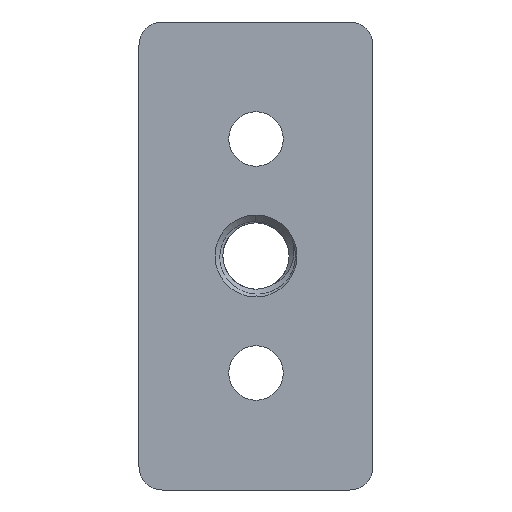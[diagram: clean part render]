
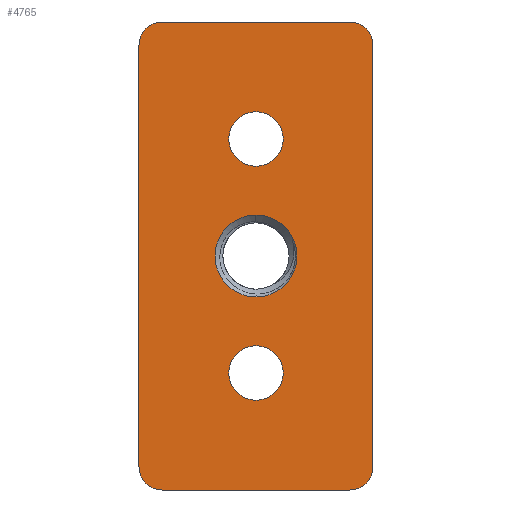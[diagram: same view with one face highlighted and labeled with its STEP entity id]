
A CAD part, front view. The second image highlights one B-rep face of the part: STEP entity #4765.
In plain terms, the highlighted planar face has unit normal (0, -1, 0).
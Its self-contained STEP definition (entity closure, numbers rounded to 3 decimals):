
#18 = VERTEX_POINT ( 'NONE', #3647 ) ;
#23 = EDGE_LOOP ( 'NONE', ( #187, #4351 ) ) ;
#145 = DIRECTION ( 'NONE',  ( 1., 0., 0. ) ) ;
#148 = VERTEX_POINT ( 'NONE', #2853 ) ;
#187 = ORIENTED_EDGE ( 'NONE', *, *, #3766, .T. ) ;
#221 = EDGE_CURVE ( 'NONE', #2150, #1195, #952, .T. ) ;
#277 = CARTESIAN_POINT ( 'NONE',  ( 15., 4., -11.5 ) ) ;
#337 = VECTOR ( 'NONE', #145, 1000. ) ;
#352 = CARTESIAN_POINT ( 'NONE',  ( 15., 4., -18.5 ) ) ;
#355 = ORIENTED_EDGE ( 'NONE', *, *, #1877, .F. ) ;
#360 = VERTEX_POINT ( 'NONE', #2316 ) ;
#452 = ORIENTED_EDGE ( 'NONE', *, *, #829, .T. ) ;
#468 = DIRECTION ( 'NONE',  ( 0., 0., -1. ) ) ;
#479 = AXIS2_PLACEMENT_3D ( 'NONE', #3198, #2453, #3533 ) ;
#500 = ORIENTED_EDGE ( 'NONE', *, *, #3704, .F. ) ;
#544 = AXIS2_PLACEMENT_3D ( 'NONE', #1350, #3565, #4333 ) ;
#576 = LINE ( 'NONE', #2956, #1409 ) ;
#704 = DIRECTION ( 'NONE',  ( 0., 1., 0. ) ) ;
#711 = DIRECTION ( 'NONE',  ( 0., 0., 1. ) ) ;
#733 = DIRECTION ( 'NONE',  ( 0., 1., 0. ) ) ;
#741 = AXIS2_PLACEMENT_3D ( 'NONE', #4437, #1427, #4112 ) ;
#784 = FACE_BOUND ( 'NONE', #2256, .T. ) ;
#829 = EDGE_CURVE ( 'NONE', #1198, #3381, #1192, .T. ) ;
#834 = DIRECTION ( 'NONE',  ( 0., 1., 0. ) ) ;
#903 = AXIS2_PLACEMENT_3D ( 'NONE', #1090, #733, #711 ) ;
#923 = DIRECTION ( 'NONE',  ( 0., 0., 1. ) ) ;
#952 = CIRCLE ( 'NONE', #544, 3. ) ;
#962 = ORIENTED_EDGE ( 'NONE', *, *, #3785, .T. ) ;
#980 = AXIS2_PLACEMENT_3D ( 'NONE', #4245, #834, #3913 ) ;
#981 = CARTESIAN_POINT ( 'NONE',  ( 15., 4., -30. ) ) ;
#1016 = DIRECTION ( 'NONE',  ( 0., -1., 0. ) ) ;
#1060 = DIRECTION ( 'NONE',  ( 0., 0., 1. ) ) ;
#1090 = CARTESIAN_POINT ( 'NONE',  ( 15., 4., -30. ) ) ;
#1146 = AXIS2_PLACEMENT_3D ( 'NONE', #2547, #4048, #3279 ) ;
#1153 = LINE ( 'NONE', #1255, #3690 ) ;
#1161 = ORIENTED_EDGE ( 'NONE', *, *, #221, .T. ) ;
#1177 = EDGE_CURVE ( 'NONE', #2753, #3556, #4023, .T. ) ;
#1192 = CIRCLE ( 'NONE', #4057, 3. ) ;
#1195 = VERTEX_POINT ( 'NONE', #3666 ) ;
#1198 = VERTEX_POINT ( 'NONE', #2929 ) ;
#1216 = CIRCLE ( 'NONE', #1813, 3. ) ;
#1224 = CARTESIAN_POINT ( 'NONE',  ( 15., 4., -41.5 ) ) ;
#1226 = AXIS2_PLACEMENT_3D ( 'NONE', #2361, #3927, #2012 ) ;
#1233 = CIRCLE ( 'NONE', #1146, 3.5 ) ;
#1247 = DIRECTION ( 'NONE',  ( 0., -1., 0. ) ) ;
#1248 = ORIENTED_EDGE ( 'NONE', *, *, #1848, .T. ) ;
#1255 = CARTESIAN_POINT ( 'NONE',  ( 30., 4., -60. ) ) ;
#1293 = CIRCLE ( 'NONE', #479, 3. ) ;
#1297 = ORIENTED_EDGE ( 'NONE', *, *, #3462, .T. ) ;
#1345 = EDGE_CURVE ( 'NONE', #148, #3556, #1293, .T. ) ;
#1350 = CARTESIAN_POINT ( 'NONE',  ( 3., 4., -57. ) ) ;
#1409 = VECTOR ( 'NONE', #923, 1000. ) ;
#1427 = DIRECTION ( 'NONE',  ( 0., 1., 0. ) ) ;
#1531 = ORIENTED_EDGE ( 'NONE', *, *, #4018, .T. ) ;
#1564 = CIRCLE ( 'NONE', #903, 5.25 ) ;
#1653 = EDGE_CURVE ( 'NONE', #1198, #360, #3676, .T. ) ;
#1709 = CARTESIAN_POINT ( 'NONE',  ( 0., 4., 0. ) ) ;
#1804 = EDGE_LOOP ( 'NONE', ( #3686, #452, #500, #1161, #355, #2069, #4625, #1531 ) ) ;
#1813 = AXIS2_PLACEMENT_3D ( 'NONE', #3195, #1247, #3988 ) ;
#1828 = CARTESIAN_POINT ( 'NONE',  ( 0., 4., -57. ) ) ;
#1848 = EDGE_CURVE ( 'NONE', #3549, #2478, #4097, .T. ) ;
#1877 = EDGE_CURVE ( 'NONE', #148, #1195, #1153, .T. ) ;
#2012 = DIRECTION ( 'NONE',  ( 0., 0., 1. ) ) ;
#2052 = CARTESIAN_POINT ( 'NONE',  ( 30., 4., -3. ) ) ;
#2069 = ORIENTED_EDGE ( 'NONE', *, *, #1345, .T. ) ;
#2145 = AXIS2_PLACEMENT_3D ( 'NONE', #2649, #704, #4611 ) ;
#2150 = VERTEX_POINT ( 'NONE', #1828 ) ;
#2256 = EDGE_LOOP ( 'NONE', ( #4797, #1248 ) ) ;
#2298 = EDGE_CURVE ( 'NONE', #2478, #3549, #4259, .T. ) ;
#2302 = CARTESIAN_POINT ( 'NONE',  ( 15., 4., -48.5 ) ) ;
#2316 = CARTESIAN_POINT ( 'NONE',  ( 27., 4., 0. ) ) ;
#2320 = CARTESIAN_POINT ( 'NONE',  ( 0., 4., -3. ) ) ;
#2348 = PLANE ( 'NONE',  #980 ) ;
#2361 = CARTESIAN_POINT ( 'NONE',  ( 15., 4., -15. ) ) ;
#2367 = CARTESIAN_POINT ( 'NONE',  ( 30., 4., -57. ) ) ;
#2401 = FACE_BOUND ( 'NONE', #23, .T. ) ;
#2438 = CARTESIAN_POINT ( 'NONE',  ( 30., 4., 0. ) ) ;
#2453 = DIRECTION ( 'NONE',  ( 0., -1., 0. ) ) ;
#2478 = VERTEX_POINT ( 'NONE', #277 ) ;
#2524 = EDGE_CURVE ( 'NONE', #3196, #3937, #3367, .T. ) ;
#2547 = CARTESIAN_POINT ( 'NONE',  ( 15., 4., -45. ) ) ;
#2575 = DIRECTION ( 'NONE',  ( 0., 0., 1. ) ) ;
#2649 = CARTESIAN_POINT ( 'NONE',  ( 15., 4., -45. ) ) ;
#2686 = VECTOR ( 'NONE', #468, 1000. ) ;
#2753 = VERTEX_POINT ( 'NONE', #2052 ) ;
#2758 = EDGE_LOOP ( 'NONE', ( #1297, #962 ) ) ;
#2784 = AXIS2_PLACEMENT_3D ( 'NONE', #981, #3308, #2575 ) ;
#2853 = CARTESIAN_POINT ( 'NONE',  ( 27., 4., -60. ) ) ;
#2929 = CARTESIAN_POINT ( 'NONE',  ( 3., 4., 0. ) ) ;
#2956 = CARTESIAN_POINT ( 'NONE',  ( 0., 4., -60. ) ) ;
#3009 = CARTESIAN_POINT ( 'NONE',  ( 3., 4., -3. ) ) ;
#3067 = FACE_BOUND ( 'NONE', #2758, .T. ) ;
#3126 = DIRECTION ( 'NONE',  ( -1., 0., 0. ) ) ;
#3195 = CARTESIAN_POINT ( 'NONE',  ( 27., 4., -3. ) ) ;
#3196 = VERTEX_POINT ( 'NONE', #2302 ) ;
#3198 = CARTESIAN_POINT ( 'NONE',  ( 27., 4., -57. ) ) ;
#3279 = DIRECTION ( 'NONE',  ( 0., 0., 1. ) ) ;
#3308 = DIRECTION ( 'NONE',  ( 0., 1., 0. ) ) ;
#3367 = CIRCLE ( 'NONE', #2145, 3.5 ) ;
#3381 = VERTEX_POINT ( 'NONE', #2320 ) ;
#3462 = EDGE_CURVE ( 'NONE', #4601, #18, #1564, .T. ) ;
#3533 = DIRECTION ( 'NONE',  ( 0., 0., 1. ) ) ;
#3549 = VERTEX_POINT ( 'NONE', #352 ) ;
#3556 = VERTEX_POINT ( 'NONE', #2367 ) ;
#3565 = DIRECTION ( 'NONE',  ( 0., -1., 0. ) ) ;
#3647 = CARTESIAN_POINT ( 'NONE',  ( 15., 4., -24.75 ) ) ;
#3666 = CARTESIAN_POINT ( 'NONE',  ( 3., 4., -60. ) ) ;
#3676 = LINE ( 'NONE', #1709, #337 ) ;
#3686 = ORIENTED_EDGE ( 'NONE', *, *, #1653, .F. ) ;
#3690 = VECTOR ( 'NONE', #3126, 1000. ) ;
#3704 = EDGE_CURVE ( 'NONE', #2150, #3381, #576, .T. ) ;
#3766 = EDGE_CURVE ( 'NONE', #3937, #3196, #1233, .T. ) ;
#3785 = EDGE_CURVE ( 'NONE', #18, #4601, #4662, .T. ) ;
#3913 = DIRECTION ( 'NONE',  ( 0., 0., 1. ) ) ;
#3927 = DIRECTION ( 'NONE',  ( 0., 1., 0. ) ) ;
#3937 = VERTEX_POINT ( 'NONE', #1224 ) ;
#3988 = DIRECTION ( 'NONE',  ( 0., 0., 1. ) ) ;
#4018 = EDGE_CURVE ( 'NONE', #2753, #360, #1216, .T. ) ;
#4023 = LINE ( 'NONE', #2438, #2686 ) ;
#4048 = DIRECTION ( 'NONE',  ( 0., 1., 0. ) ) ;
#4057 = AXIS2_PLACEMENT_3D ( 'NONE', #3009, #1016, #1060 ) ;
#4097 = CIRCLE ( 'NONE', #1226, 3.5 ) ;
#4112 = DIRECTION ( 'NONE',  ( 0., 0., 1. ) ) ;
#4245 = CARTESIAN_POINT ( 'NONE',  ( 30., 4., 0. ) ) ;
#4259 = CIRCLE ( 'NONE', #741, 3.5 ) ;
#4333 = DIRECTION ( 'NONE',  ( 0., 0., 1. ) ) ;
#4351 = ORIENTED_EDGE ( 'NONE', *, *, #2524, .T. ) ;
#4437 = CARTESIAN_POINT ( 'NONE',  ( 15., 4., -15. ) ) ;
#4601 = VERTEX_POINT ( 'NONE', #4602 ) ;
#4602 = CARTESIAN_POINT ( 'NONE',  ( 15., 4., -35.25 ) ) ;
#4611 = DIRECTION ( 'NONE',  ( 0., 0., 1. ) ) ;
#4623 = FACE_OUTER_BOUND ( 'NONE', #1804, .T. ) ;
#4625 = ORIENTED_EDGE ( 'NONE', *, *, #1177, .F. ) ;
#4662 = CIRCLE ( 'NONE', #2784, 5.25 ) ;
#4765 = ADVANCED_FACE ( 'NONE', ( #3067, #2401, #784, #4623 ), #2348, .F. ) ;
#4797 = ORIENTED_EDGE ( 'NONE', *, *, #2298, .T. ) ;
